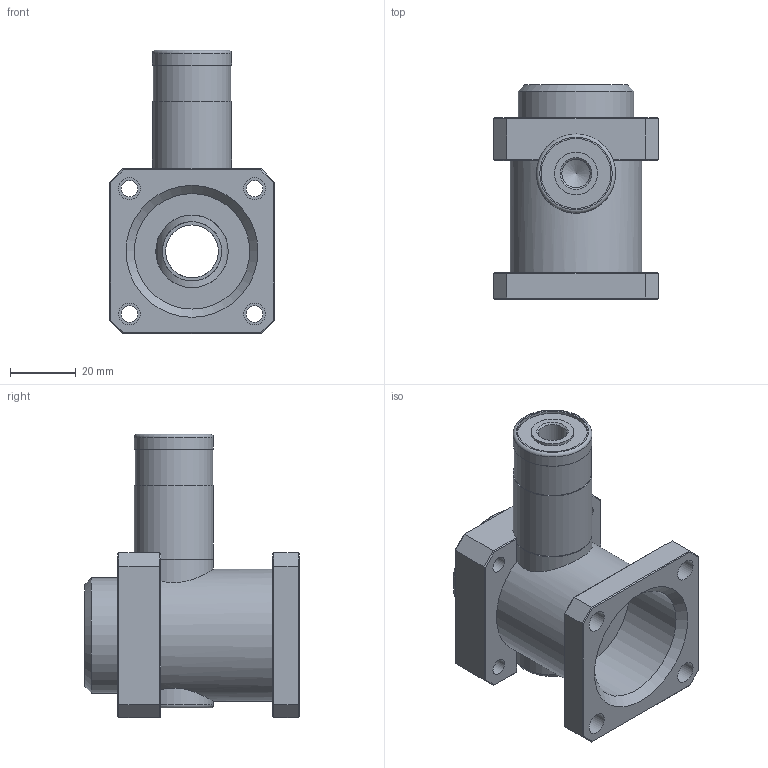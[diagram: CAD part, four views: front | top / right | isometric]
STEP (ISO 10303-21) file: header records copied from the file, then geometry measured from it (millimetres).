
FILE_DESCRIPTION(('STEP AP242'),'1');
FILE_NAME('A.6016 + MA.7040 Feststellpatrone mit Zylinderaufnahme.stp','2026-07-01T13:22:03',(' '),(' '),'Spatial InterOp 3D',' ',' ');
FILE_SCHEMA(('AP242_MANAGED_MODEL_BASED_3D_ENGINEERING_MIM_LF {1 0 10303 442 1 1 4}'));
Length unit declared in the file: millimetre
Products named in the file (3): A.6016 + MA.7040 Feststellpatrone mit Zylinderaufnahme; MA.7040.00; A.6016 Feststellpatrone
Assembly tree (2 placements, depth 2):
  A.6016 + MA.7040 Feststellpatrone mit Zylinderaufnahme
    MA.7040.00
    A.6016 Feststellpatrone
Bounding box: 50 x 65 x 86 mm (x, y, z)
Volume: 87398.4 mm3; surface area: 29886.9 mm2
Topology: 2 solids, 2 shells, 99 faces, 231 edges, 143 vertices
Faces by surface type: plane 65, cylinder 25, cone 7, torus 2
Full cylindrical faces by diameter (mm): 5 x4, 6.6 x4, 8.566 x2, 13 x1, 16 x2, 18 x2, 21.2 x1, 22 x1, 23.5 x1, 24 x4, 35 x2, 40 x1
Entity records: 4056 total; most frequent: CARTESIAN_POINT 901, DIRECTION 438, ORIENTED_EDGE 366, EDGE_CURVE 183, EDGE_LOOP 164, AXIS2_PLACEMENT_3D 159, VERTEX_POINT 130, FACE_OUTER_BOUND 126
